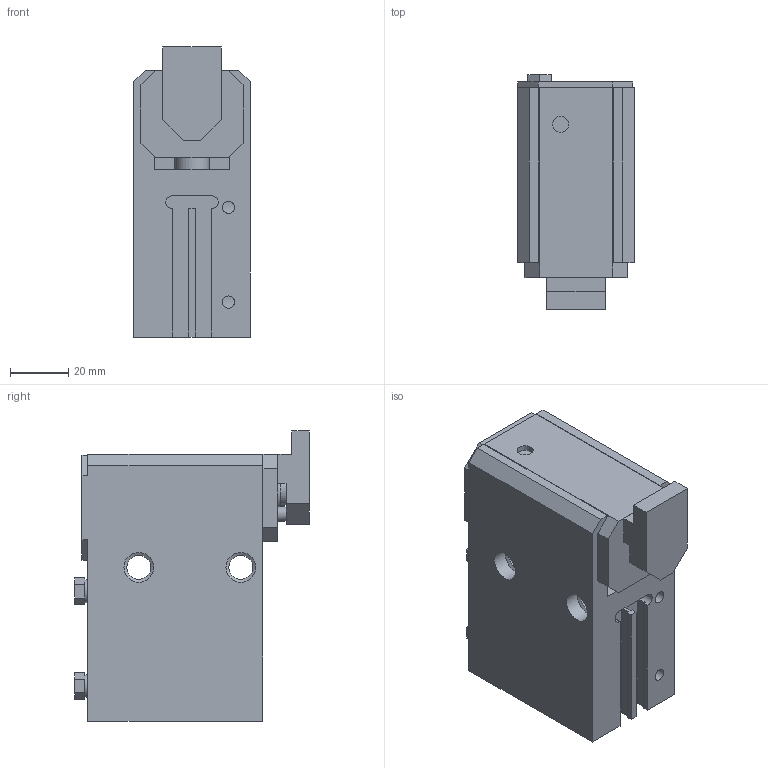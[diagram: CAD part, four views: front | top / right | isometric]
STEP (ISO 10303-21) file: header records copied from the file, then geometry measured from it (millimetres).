
FILE_DESCRIPTION(/* description */ ('Stopper SD-60-DW-08-E'),/* implementation_level */ '2;1');
FILE_NAME(/* name */ 'C:\Marketing\01_Versamove-SPU_STEP-Dateien-Homepage\Versamove plus\Stopper\K503022061_Stopper_SD-60-DW-08.stp',/* time_stamp */ '2017-02-01T13:44:03+01:00',/* author */ ('herbert.engels'),/* organization */ (''),/* preprocessor_version */ 'ST-DEVELOPER v15.6',/* originating_system */ 'Autodesk Inventor 2015',/* authorisation */ '');
FILE_SCHEMA (('CONFIG_CONTROL_DESIGN'));
Length unit declared in the file: millimetre
Products named in the file (1): T-ENG556644
Bounding box: 40 x 80.5 x 99.5 mm (x, y, z)
Volume: 201885.1 mm3; surface area: 47867.4 mm2
Topology: 1 solids, 7 shells, 161 faces, 384 edges, 255 vertices
Faces by surface type: plane 106, cylinder 46, cone 7, torus 2
Full cylindrical faces by diameter (mm): 2.5 x2, 4.1 x1, 4.2 x4, 5 x2, 5.1 x2, 5.2 x2, 5.5 x1, 7.8 x2, 8.2 x2, 10.05 x2, 10.2 x4, 12 x2, 13 x1, 22.06 x1, 24.8 x1, 35.92 x1, 36.05 x2, 38.05 x1
Entity records: 4722 total; most frequent: CARTESIAN_POINT 916, DIRECTION 732, ORIENTED_EDGE 652, EDGE_CURVE 326, AXIS2_PLACEMENT_3D 251, EDGE_LOOP 239, VERTEX_POINT 239, LINE 230
